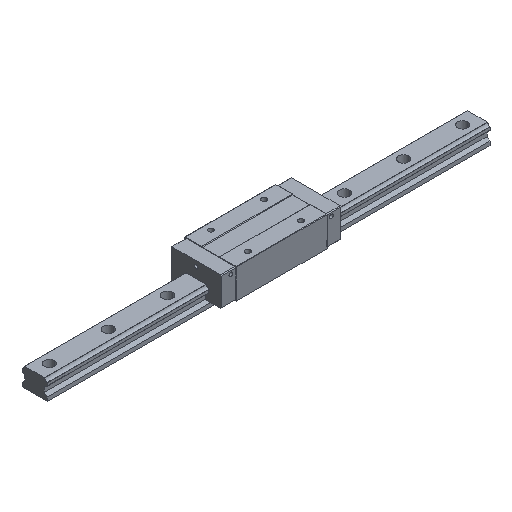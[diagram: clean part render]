
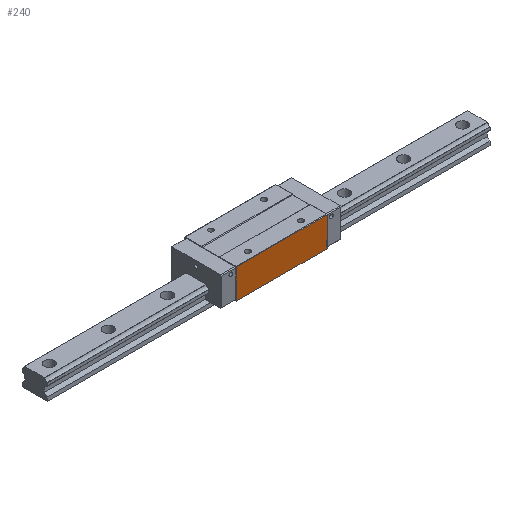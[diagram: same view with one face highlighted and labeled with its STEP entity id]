
A CAD part, isometric view. The second image highlights one B-rep face of the part: STEP entity #240.
In plain terms, the highlighted planar face has unit normal (0, -1, 0).
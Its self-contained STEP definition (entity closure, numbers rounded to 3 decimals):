
#31 = LINE ( 'NONE', #1800, #2411 ) ;
#158 = EDGE_CURVE ( 'NONE', #2783, #4783, #2804, .T. ) ;
#240 = ADVANCED_FACE ( 'NONE', ( #822 ), #1710, .F. ) ;
#804 = LINE ( 'NONE', #4661, #1114 ) ;
#822 = FACE_OUTER_BOUND ( 'NONE', #2604, .T. ) ;
#923 = EDGE_CURVE ( 'NONE', #1104, #3994, #31, .T. ) ;
#942 = DIRECTION ( 'NONE',  ( -1., 0., 0. ) ) ;
#1104 = VERTEX_POINT ( 'NONE', #1989 ) ;
#1114 = VECTOR ( 'NONE', #3780, 1000. ) ;
#1142 = ORIENTED_EDGE ( 'NONE', *, *, #3850, .F. ) ;
#1199 = LINE ( 'NONE', #4660, #1469 ) ;
#1250 = CARTESIAN_POINT ( 'NONE',  ( 61.5, -35., 48. ) ) ;
#1469 = VECTOR ( 'NONE', #1687, 1000. ) ;
#1687 = DIRECTION ( 'NONE',  ( 0., 0., -1. ) ) ;
#1710 = PLANE ( 'NONE',  #4124 ) ;
#1777 = CARTESIAN_POINT ( 'NONE',  ( 61.5, -35., 7.5 ) ) ;
#1800 = CARTESIAN_POINT ( 'NONE',  ( 61.5, -35., 47.5 ) ) ;
#1891 = CARTESIAN_POINT ( 'NONE',  ( -61.5, -35., 47.5 ) ) ;
#1989 = CARTESIAN_POINT ( 'NONE',  ( 61.5, -35., 47.5 ) ) ;
#2411 = VECTOR ( 'NONE', #942, 1000. ) ;
#2563 = EDGE_CURVE ( 'NONE', #3994, #4783, #804, .T. ) ;
#2604 = EDGE_LOOP ( 'NONE', ( #1142, #4081, #4198, #4603 ) ) ;
#2673 = CARTESIAN_POINT ( 'NONE',  ( -61.5, -35., 7.5 ) ) ;
#2783 = VERTEX_POINT ( 'NONE', #1777 ) ;
#2804 = LINE ( 'NONE', #5406, #4949 ) ;
#2981 = DIRECTION ( 'NONE',  ( 1., 0., 0. ) ) ;
#3436 = DIRECTION ( 'NONE',  ( 0., 1., 0. ) ) ;
#3780 = DIRECTION ( 'NONE',  ( 0., 0., -1. ) ) ;
#3850 = EDGE_CURVE ( 'NONE', #1104, #2783, #1199, .T. ) ;
#3994 = VERTEX_POINT ( 'NONE', #1891 ) ;
#4081 = ORIENTED_EDGE ( 'NONE', *, *, #923, .T. ) ;
#4101 = DIRECTION ( 'NONE',  ( -1., 0., 0. ) ) ;
#4124 = AXIS2_PLACEMENT_3D ( 'NONE', #1250, #3436, #2981 ) ;
#4198 = ORIENTED_EDGE ( 'NONE', *, *, #2563, .T. ) ;
#4603 = ORIENTED_EDGE ( 'NONE', *, *, #158, .F. ) ;
#4660 = CARTESIAN_POINT ( 'NONE',  ( 61.5, -35., 48. ) ) ;
#4661 = CARTESIAN_POINT ( 'NONE',  ( -61.5, -35., 48. ) ) ;
#4783 = VERTEX_POINT ( 'NONE', #2673 ) ;
#4949 = VECTOR ( 'NONE', #4101, 1000. ) ;
#5406 = CARTESIAN_POINT ( 'NONE',  ( 61.5, -35., 7.5 ) ) ;
